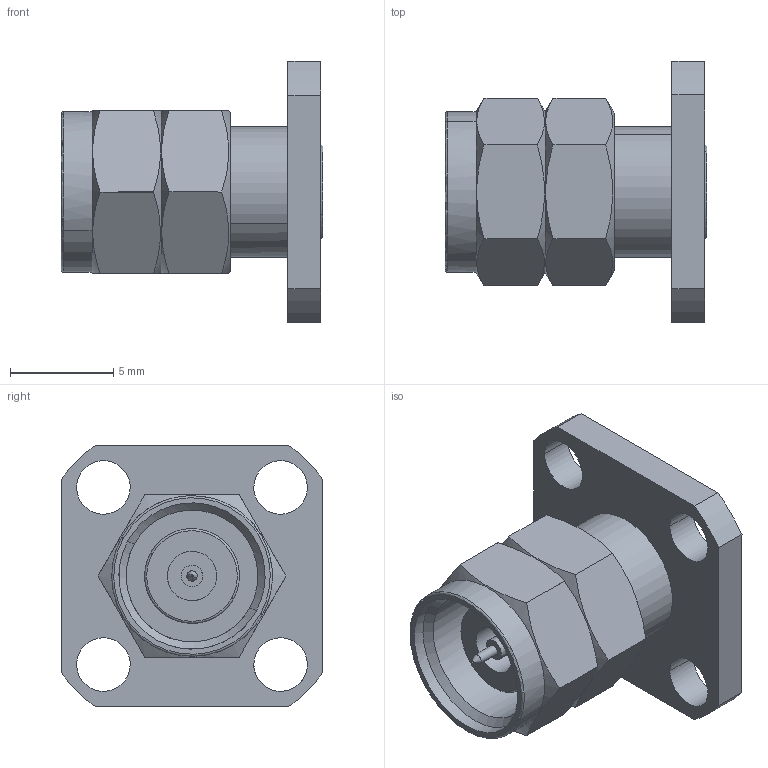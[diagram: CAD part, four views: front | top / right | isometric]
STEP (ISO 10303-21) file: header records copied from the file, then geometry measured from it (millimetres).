
FILE_DESCRIPTION(('CATIA V5 STEP Exchange'),'2;1');
FILE_NAME('F:\Work SZ\CMP 图纸\Precision Coaxial Connector\2.4mm\97-03-9F5-008\97-03-9F5-008(REV.A).stp','2013-08-08T08:54:28+00:00',('none'),('none'),'CATIA Version 5 Release 17 (IN-10)','CATIA V5 STEP AP203','none');
FILE_SCHEMA(('CONFIG_CONTROL_DESIGN'));
Length unit declared in the file: millimetre
Products named in the file (1): 97-03-9F5-008
Bounding box: 12.7 x 12.7 x 12.7 mm (x, y, z)
Surface area: 923.3 mm2 (no closed solid volume)
Topology: 0 solids, 1 shells, 96 faces, 242 edges, 154 vertices
Faces by surface type: cylinder 34, plane 34, cone 24, torus 4
Entity records: 3607 total; most frequent: CARTESIAN_POINT 1549, ORIENTED_EDGE 474, DIRECTION 292, EDGE_CURVE 237, VERTEX_POINT 153, AXIS2_PLACEMENT_3D 122, EDGE_LOOP 114, B_SPLINE_CURVE_WITH_KNOTS 103
